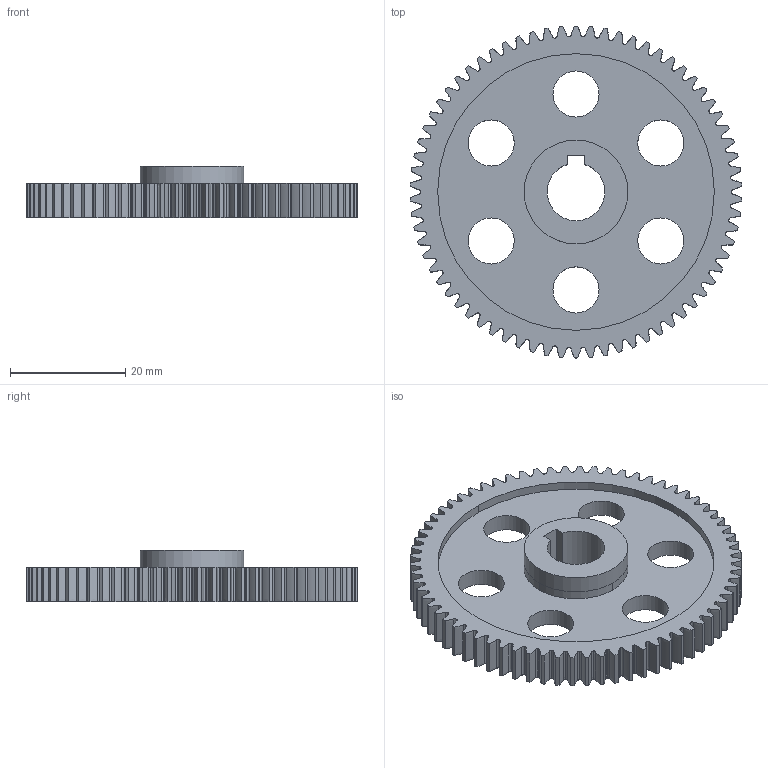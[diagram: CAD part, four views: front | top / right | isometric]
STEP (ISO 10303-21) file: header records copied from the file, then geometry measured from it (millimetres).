
FILE_DESCRIPTION(('Open CASCADE Model'),'2;1');
FILE_NAME('04_Gear2_z70_m0.8','2026-10-20T19:44:36',('Author'),( 'Open CASCADE'),'Open CASCADE STEP processor 8.0','build123d', 'Unknown');
FILE_SCHEMA(('AUTOMOTIVE_DESIGN { 1 0 10303 214 1 1 1 1 }'));
Length unit declared in the file: millimetre
Products named in the file (2): 04_Gear2_z70_m0.8
Assembly tree (1 placements, depth 2):
  04_Gear2_z70_m0.8
    04_Gear2_z70_m0.8
Bounding box: 57.57 x 57.6 x 9 mm (x, y, z)
Volume: 9141.2 mm3; surface area: 7770.8 mm2
Topology: 1 solids, 1 shells, 473 faces, 1393 edges, 926 vertices
Faces by surface type: extrusion 280, cylinder 164, plane 29
Full cylindrical faces by diameter (mm): 8 x6, 18 x1
Entity records: 49978 total; most frequent: CARTESIAN_POINT 24013, DIRECTION 4007, ORIENTED_EDGE 2786, PCURVE 2786, DEFINITIONAL_REPRESENTATION 2786, VECTOR 2656, LINE 2376, B_SPLINE_CURVE_WITH_KNOTS 1421
